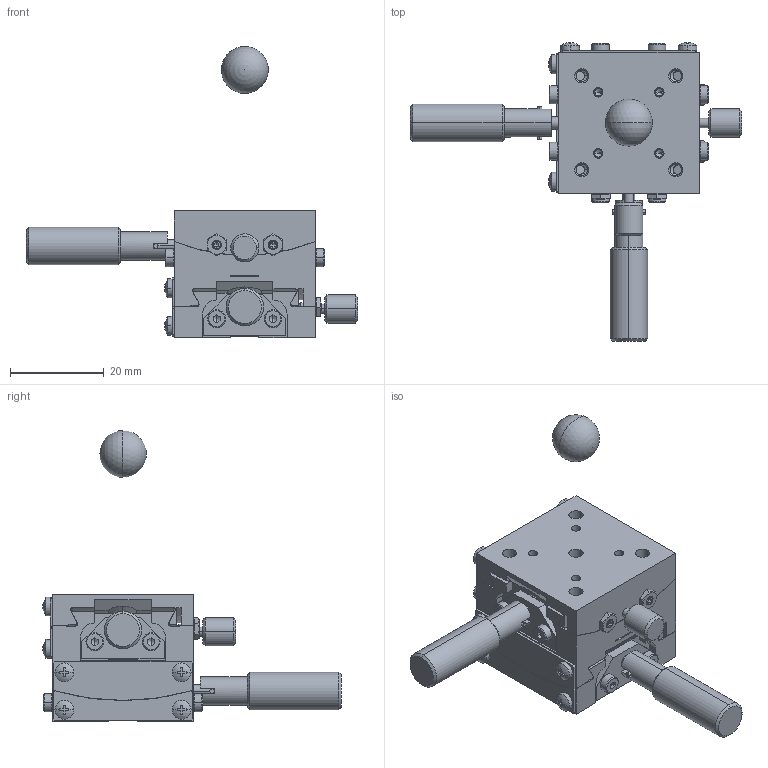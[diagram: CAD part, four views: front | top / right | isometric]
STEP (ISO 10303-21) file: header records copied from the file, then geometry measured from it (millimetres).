
FILE_DESCRIPTION (( 'STEP AP214' ), '1' );
FILE_NAME ('SH03B-DS.STEP', '2009-04-21T04:49:06', ( ' ' ), ( ' ' ), 'SwSTEP 2.0', 'SolidWorks 2008', '' );
FILE_SCHEMA (( 'AUTOMOTIVE_DESIGN' ));
Length unit declared in the file: millimetre
Products named in the file (14): 000140-2060-Part-1-3; 000140-2060-Part-1-4; 000140-2060-4; SH03B-DS.sldasm-Part-1; 002010-2010-1; SH03B-DT(PL); SH03B-DS; 000140-2030-2; SH03B-DM(PL); 002010-2010-Part-1-1; 000140-2040-Part-1-2; 000140-2040-2; 000140-2030-Part-1-2; 000140-2060-3
Assembly tree (13 placements, depth 4):
  SH03B-DS
    000140-2060-3
      000140-2060-Part-1-3
    SH03B-DS.sldasm-Part-1
    SH03B-DT(PL)
      002010-2010-1
        002010-2010-Part-1-1
    000140-2060-4
      000140-2060-Part-1-4
    SH03B-DM(PL)
      000140-2040-2
        000140-2040-Part-1-2
      000140-2030-2
        000140-2030-Part-1-2
Bounding box: 70.5 x 63.58 x 62 mm (x, y, z)
Volume: 25559.8 mm3; surface area: 18039.7 mm2
Topology: 6 solids, 44 shells, 1463 faces, 3481 edges, 2078 vertices
Faces by surface type: plane 618, cylinder 440, cone 354, torus 29, sphere 22
Entity records: 43088 total; most frequent: CARTESIAN_POINT 8715, DIRECTION 7540, ORIENTED_EDGE 6768, EDGE_CURVE 3384, AXIS2_PLACEMENT_3D 2880, VERTEX_POINT 2075, VECTOR 1780, LINE 1780
